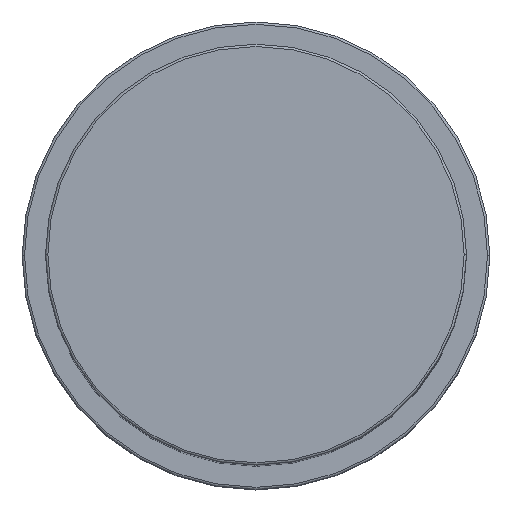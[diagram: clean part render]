
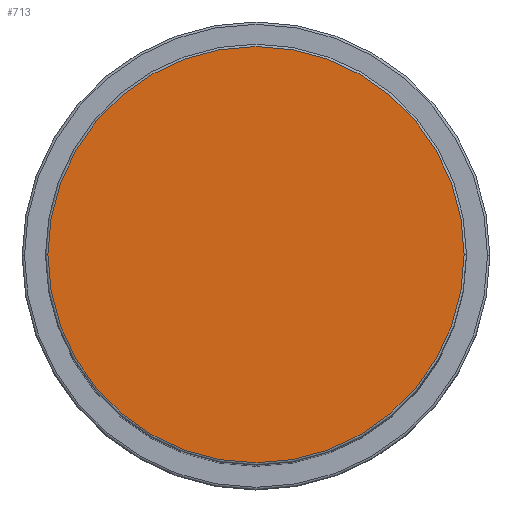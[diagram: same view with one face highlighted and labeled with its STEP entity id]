
A CAD part, top view. The second image highlights one B-rep face of the part: STEP entity #713.
In plain terms, the highlighted planar face has unit normal (0, 0, 1).
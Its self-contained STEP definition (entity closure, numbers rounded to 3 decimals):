
#13 = PLANE ( 'NONE',  #1453 ) ;
#236 = DIRECTION ( 'NONE',  ( 0., 0., 1. ) ) ;
#448 = CARTESIAN_POINT ( 'NONE',  ( 0., 0., 164. ) ) ;
#475 = CIRCLE ( 'NONE', #1761, 44.5 ) ;
#504 = CIRCLE ( 'NONE', #1824, 44.5 ) ;
#545 = EDGE_CURVE ( 'NONE', #941, #618, #504, .T. ) ;
#618 = VERTEX_POINT ( 'NONE', #1397 ) ;
#713 = ADVANCED_FACE ( 'NONE', ( #1805 ), #13, .T. ) ;
#794 = EDGE_LOOP ( 'NONE', ( #1405, #1743 ) ) ;
#875 = CARTESIAN_POINT ( 'NONE',  ( 0., 0., 164. ) ) ;
#917 = DIRECTION ( 'NONE',  ( 1., 0., 0. ) ) ;
#941 = VERTEX_POINT ( 'NONE', #2004 ) ;
#976 = EDGE_CURVE ( 'NONE', #618, #941, #475, .T. ) ;
#1138 = DIRECTION ( 'NONE',  ( 0., 0., 1. ) ) ;
#1397 = CARTESIAN_POINT ( 'NONE',  ( -44.5, 0., 164. ) ) ;
#1405 = ORIENTED_EDGE ( 'NONE', *, *, #545, .T. ) ;
#1453 = AXIS2_PLACEMENT_3D ( 'NONE', #2061, #1138, #1785 ) ;
#1743 = ORIENTED_EDGE ( 'NONE', *, *, #976, .T. ) ;
#1761 = AXIS2_PLACEMENT_3D ( 'NONE', #875, #236, #1830 ) ;
#1785 = DIRECTION ( 'NONE',  ( 1., 0., 0. ) ) ;
#1805 = FACE_OUTER_BOUND ( 'NONE', #794, .T. ) ;
#1824 = AXIS2_PLACEMENT_3D ( 'NONE', #448, #2043, #917 ) ;
#1830 = DIRECTION ( 'NONE',  ( 1., 0., 0. ) ) ;
#2004 = CARTESIAN_POINT ( 'NONE',  ( 44.5, 0., 164. ) ) ;
#2043 = DIRECTION ( 'NONE',  ( 0., 0., 1. ) ) ;
#2061 = CARTESIAN_POINT ( 'NONE',  ( 0., 0., 164. ) ) ;
